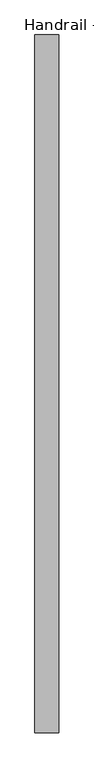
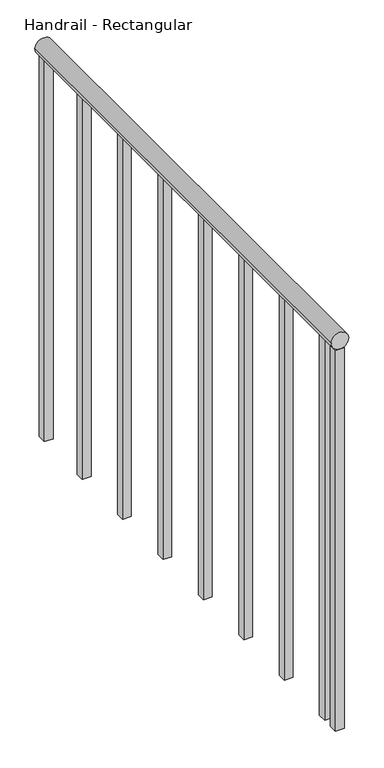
"""IFC4 building model written with IfcOpenShell, lengths in millimetres: railing geometry, Handrail - Rectangular."""

from ifc_helpers import new_model, si_unit, point, frame, frame_2d, origin, place, context, project, spatial, polyline, circle_curve, trimmed, segment, composite_curve, outline, extrude, source, transform, mapped, element, save


def handrail_rectangular_661a7cde(model_context):
    return source(origin(), model_context, "Body", "SweptSolid", [
        extrude(outline(composite_curve([segment(trimmed(circle_curve(frame_2d((3943.35, -11418.8589563)), 19.05), [point((3943.35, -11399.8089563))], [point((3943.35, -11437.9089563))], False, "CARTESIAN"), True, "CONTINUOUS"), segment(trimmed(circle_curve(frame_2d((3943.35, -11418.8589563)), 19.05), [point((3943.35, -11437.9089563))], [point((3943.35, -11399.8089563))], False, "CARTESIAN"), True, "CONTINUOUS")], self_intersect=False)), frame((0.0, 10624.0316867, 0.0), z_axis=(0.0, 1.0, 0.0), x_axis=(0.0, 0.0, 1.0)), (0.0, 0.0, 1.0), 1117.6),
        extrude(outline(polyline([(-11428.3839563, 10684.3566867), (-11409.3339563, 10684.3566867), (-11409.3339563, 10665.3066867), (-11428.3839563, 10665.3066867), (-11428.3839563, 10684.3566867)])), frame((0.0, 0.0, 3048.0), z_axis=(0.0, 0.0, 1.0), x_axis=(1.0, 0.0, 0.0)), (0.0, 0.0, 1.0), 876.3),
        extrude(outline(polyline([(-11428.3839563, 10836.7566867), (-11409.3339563, 10836.7566867), (-11409.3339563, 10817.7066867), (-11428.3839563, 10817.7066867), (-11428.3839563, 10836.7566867)])), frame((0.0, 0.0, 3048.0), z_axis=(0.0, 0.0, 1.0), x_axis=(1.0, 0.0, 0.0)), (0.0, 0.0, 1.0), 876.3),
        extrude(outline(polyline([(-11428.3839563, 10989.1566867), (-11409.3339563, 10989.1566867), (-11409.3339563, 10970.1066867), (-11428.3839563, 10970.1066867), (-11428.3839563, 10989.1566867)])), frame((0.0, 0.0, 3048.0), z_axis=(0.0, 0.0, 1.0), x_axis=(1.0, 0.0, 0.0)), (0.0, 0.0, 1.0), 876.3),
        extrude(outline(polyline([(-11428.3839563, 11141.5566867), (-11409.3339563, 11141.5566867), (-11409.3339563, 11122.5066867), (-11428.3839563, 11122.5066867), (-11428.3839563, 11141.5566867)])), frame((0.0, 0.0, 3048.0), z_axis=(0.0, 0.0, 1.0), x_axis=(1.0, 0.0, 0.0)), (0.0, 0.0, 1.0), 876.3),
        extrude(outline(polyline([(-11428.3839563, 11293.9566867), (-11409.3339563, 11293.9566867), (-11409.3339563, 11274.9066867), (-11428.3839563, 11274.9066867), (-11428.3839563, 11293.9566867)])), frame((0.0, 0.0, 3048.0), z_axis=(0.0, 0.0, 1.0), x_axis=(1.0, 0.0, 0.0)), (0.0, 0.0, 1.0), 876.3),
        extrude(outline(polyline([(-11428.3839563, 11446.3566867), (-11409.3339563, 11446.3566867), (-11409.3339563, 11427.3066867), (-11428.3839563, 11427.3066867), (-11428.3839563, 11446.3566867)])), frame((0.0, 0.0, 3048.0), z_axis=(0.0, 0.0, 1.0), x_axis=(1.0, 0.0, 0.0)), (0.0, 0.0, 1.0), 876.3),
        extrude(outline(polyline([(-11428.3839563, 11598.7566867), (-11409.3339563, 11598.7566867), (-11409.3339563, 11579.7066867), (-11428.3839563, 11579.7066867), (-11428.3839563, 11598.7566867)])), frame((0.0, 0.0, 3048.0), z_axis=(0.0, 0.0, 1.0), x_axis=(1.0, 0.0, 0.0)), (0.0, 0.0, 1.0), 876.3),
        extrude(outline(polyline([(-11428.3839563, 10643.0816867), (-11409.3339563, 10643.0816867), (-11409.3339563, 10624.0316867), (-11428.3839563, 10624.0316867), (-11428.3839563, 10643.0816867)])), frame((0.0, 0.0, 3048.0), z_axis=(0.0, 0.0, 1.0), x_axis=(1.0, 0.0, 0.0)), (0.0, 0.0, 1.0), 876.3),
        extrude(outline(polyline([(-11428.3839563, 11741.6316867), (-11409.3339563, 11741.6316867), (-11409.3339563, 11722.5816867), (-11428.3839563, 11722.5816867), (-11428.3839563, 11741.6316867)])), frame((0.0, 0.0, 3048.0), z_axis=(0.0, 0.0, 1.0), x_axis=(1.0, 0.0, 0.0)), (0.0, 0.0, 1.0), 876.3),
    ])


if __name__ == "__main__":
    model = new_model("IFC4")
    model_context = context("Model", 3, world=origin())
    ifc_project = project(units=[si_unit("LENGTHUNIT", "METRE", prefix="MILLI")], contexts=[model_context])
    site = spatial("IfcSite", under=ifc_project)
    building = spatial("IfcBuilding", under=site)
    placement = place(None, origin())
    handrail_rectangular_shape = handrail_rectangular_661a7cde(model_context)
    element("IfcRailing", 1, ObjectType="Handrail - Rectangular", at=placement, inside=building, context=model_context, shape_type="MappedRepresentation", body=[
        mapped(handrail_rectangular_shape, transform((0.0, 0.0, 0.0), x_axis=(1.0, 0.0, 0.0), y_axis=(0.0, 1.0, 0.0), z_axis=(0.0, 0.0, 1.0))),
    ])
    save(model, "model.ifc")
